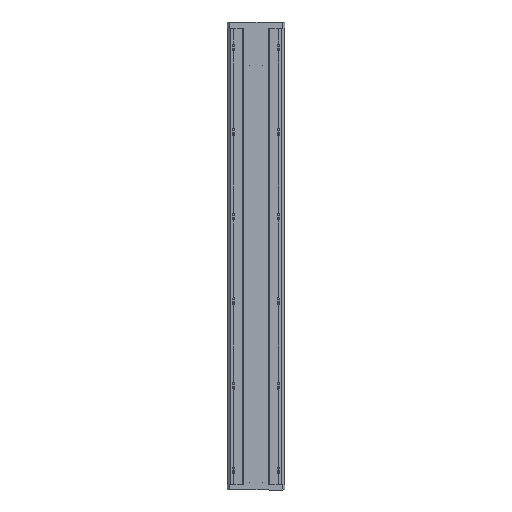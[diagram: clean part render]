
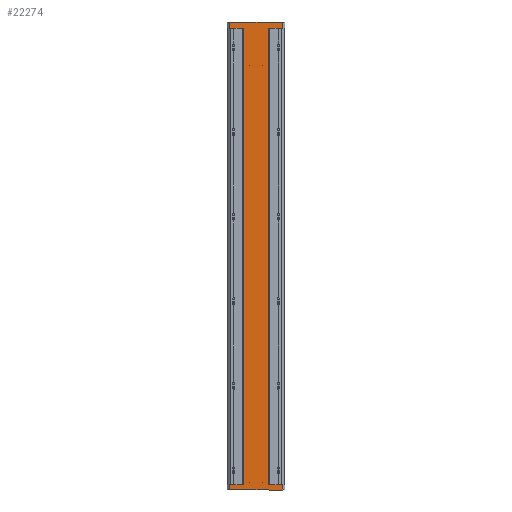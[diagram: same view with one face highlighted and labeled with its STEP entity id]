
A CAD part, front view. The second image highlights one B-rep face of the part: STEP entity #22274.
In plain terms, the highlighted planar face has unit normal (0, -1, 0).
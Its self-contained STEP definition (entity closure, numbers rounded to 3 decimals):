
#43 = VECTOR ( 'NONE', #20192, 1000. ) ;
#166 = EDGE_CURVE ( 'NONE', #13859, #22453, #13970, .T. ) ;
#246 = ORIENTED_EDGE ( 'NONE', *, *, #28157, .F. ) ;
#507 = ORIENTED_EDGE ( 'NONE', *, *, #34136, .F. ) ;
#532 = VERTEX_POINT ( 'NONE', #30025 ) ;
#646 = CARTESIAN_POINT ( 'NONE',  ( -62., 0., -927. ) ) ;
#708 = VECTOR ( 'NONE', #23096, 1000. ) ;
#1125 = VECTOR ( 'NONE', #2888, 1000. ) ;
#1501 = ORIENTED_EDGE ( 'NONE', *, *, #8194, .F. ) ;
#1569 = CARTESIAN_POINT ( 'NONE',  ( 0., 0., -927. ) ) ;
#1695 = CARTESIAN_POINT ( 'NONE',  ( 62., 0., 180. ) ) ;
#2070 = ORIENTED_EDGE ( 'NONE', *, *, #2386, .F. ) ;
#2386 = EDGE_CURVE ( 'NONE', #13859, #36493, #9461, .T. ) ;
#2772 = CARTESIAN_POINT ( 'NONE',  ( -30.172, 0., 115. ) ) ;
#2888 = DIRECTION ( 'NONE',  ( 0., 0., -1. ) ) ;
#3150 = VECTOR ( 'NONE', #14347, 1000. ) ;
#3589 = EDGE_CURVE ( 'NONE', #36493, #25877, #35976, .T. ) ;
#4096 = ORIENTED_EDGE ( 'NONE', *, *, #34611, .F. ) ;
#4175 = LINE ( 'NONE', #36622, #43 ) ;
#5714 = LINE ( 'NONE', #27216, #32747 ) ;
#6416 = VECTOR ( 'NONE', #19162, 1000. ) ;
#7761 = EDGE_CURVE ( 'NONE', #17090, #8768, #18859, .T. ) ;
#7998 = VECTOR ( 'NONE', #10881, 1000. ) ;
#8048 = CARTESIAN_POINT ( 'NONE',  ( 62., 0., -927. ) ) ;
#8159 = ORIENTED_EDGE ( 'NONE', *, *, #34766, .T. ) ;
#8194 = EDGE_CURVE ( 'NONE', #25877, #13759, #26120, .T. ) ;
#8768 = VERTEX_POINT ( 'NONE', #646 ) ;
#9440 = CARTESIAN_POINT ( 'NONE',  ( -30.172, 0., -915. ) ) ;
#9461 = LINE ( 'NONE', #31008, #12668 ) ;
#9785 = EDGE_CURVE ( 'NONE', #10487, #532, #23052, .T. ) ;
#10487 = VERTEX_POINT ( 'NONE', #31506 ) ;
#10606 = DIRECTION ( 'NONE',  ( -1., 0., 0. ) ) ;
#10881 = DIRECTION ( 'NONE',  ( 0., 0., 1. ) ) ;
#11232 = LINE ( 'NONE', #11843, #26774 ) ;
#11843 = CARTESIAN_POINT ( 'NONE',  ( -30.172, 0., -915. ) ) ;
#12668 = VECTOR ( 'NONE', #14434, 1000. ) ;
#13002 = EDGE_CURVE ( 'NONE', #17090, #22209, #11232, .T. ) ;
#13049 = DIRECTION ( 'NONE',  ( 1., 0., 0. ) ) ;
#13759 = VERTEX_POINT ( 'NONE', #24183 ) ;
#13848 = AXIS2_PLACEMENT_3D ( 'NONE', #2772, #23088, #18146 ) ;
#13859 = VERTEX_POINT ( 'NONE', #29756 ) ;
#13970 = LINE ( 'NONE', #15857, #7998 ) ;
#14117 = LINE ( 'NONE', #35521, #34322 ) ;
#14216 = CARTESIAN_POINT ( 'NONE',  ( 30.172, 0., 165. ) ) ;
#14347 = DIRECTION ( 'NONE',  ( 1., 0., 0. ) ) ;
#14434 = DIRECTION ( 'NONE',  ( -1., 0., 0. ) ) ;
#14496 = CARTESIAN_POINT ( 'NONE',  ( 30.172, 0., -915. ) ) ;
#15084 = FACE_OUTER_BOUND ( 'NONE', #33039, .T. ) ;
#15311 = ORIENTED_EDGE ( 'NONE', *, *, #31632, .F. ) ;
#15425 = VERTEX_POINT ( 'NONE', #34531 ) ;
#15799 = CARTESIAN_POINT ( 'NONE',  ( -30.172, 0., -915. ) ) ;
#15857 = CARTESIAN_POINT ( 'NONE',  ( 62., 0., 115. ) ) ;
#17090 = VERTEX_POINT ( 'NONE', #30603 ) ;
#18146 = DIRECTION ( 'NONE',  ( 0., 0., 1. ) ) ;
#18156 = LINE ( 'NONE', #1569, #33355 ) ;
#18859 = LINE ( 'NONE', #18889, #6416 ) ;
#18889 = CARTESIAN_POINT ( 'NONE',  ( -62., 0., 165. ) ) ;
#19061 = DIRECTION ( 'NONE',  ( 0., 0., 1. ) ) ;
#19162 = DIRECTION ( 'NONE',  ( 0., 0., -1. ) ) ;
#19313 = LINE ( 'NONE', #35772, #3150 ) ;
#19512 = CARTESIAN_POINT ( 'NONE',  ( 30.172, 0., 115. ) ) ;
#20192 = DIRECTION ( 'NONE',  ( 0., 0., 1. ) ) ;
#21977 = ORIENTED_EDGE ( 'NONE', *, *, #3589, .F. ) ;
#22209 = VERTEX_POINT ( 'NONE', #15799 ) ;
#22274 = ADVANCED_FACE ( 'NONE', ( #15084 ), #29173, .F. ) ;
#22453 = VERTEX_POINT ( 'NONE', #1695 ) ;
#23052 = LINE ( 'NONE', #23073, #708 ) ;
#23073 = CARTESIAN_POINT ( 'NONE',  ( -62., 0., 115. ) ) ;
#23088 = DIRECTION ( 'NONE',  ( 0., 1., 0. ) ) ;
#23096 = DIRECTION ( 'NONE',  ( 0., 0., -1. ) ) ;
#23100 = DIRECTION ( 'NONE',  ( -1., 0., 0. ) ) ;
#23636 = ORIENTED_EDGE ( 'NONE', *, *, #9785, .T. ) ;
#24183 = CARTESIAN_POINT ( 'NONE',  ( 62., 0., -915. ) ) ;
#24869 = VERTEX_POINT ( 'NONE', #8048 ) ;
#25877 = VERTEX_POINT ( 'NONE', #14496 ) ;
#26120 = LINE ( 'NONE', #9440, #33007 ) ;
#26774 = VECTOR ( 'NONE', #13049, 1000. ) ;
#27216 = CARTESIAN_POINT ( 'NONE',  ( -30.172, 0., 165. ) ) ;
#28157 = EDGE_CURVE ( 'NONE', #15425, #532, #5714, .T. ) ;
#29031 = ORIENTED_EDGE ( 'NONE', *, *, #13002, .F. ) ;
#29173 = PLANE ( 'NONE',  #13848 ) ;
#29756 = CARTESIAN_POINT ( 'NONE',  ( 62., 0., 165. ) ) ;
#30025 = CARTESIAN_POINT ( 'NONE',  ( -62., 0., 165. ) ) ;
#30603 = CARTESIAN_POINT ( 'NONE',  ( -62., 0., -915. ) ) ;
#30658 = ORIENTED_EDGE ( 'NONE', *, *, #166, .T. ) ;
#30988 = DIRECTION ( 'NONE',  ( 1., 0., 0. ) ) ;
#31008 = CARTESIAN_POINT ( 'NONE',  ( -30.172, 0., 165. ) ) ;
#31506 = CARTESIAN_POINT ( 'NONE',  ( -62., 0., 180. ) ) ;
#31632 = EDGE_CURVE ( 'NONE', #10487, #22453, #19313, .T. ) ;
#32747 = VECTOR ( 'NONE', #10606, 1000. ) ;
#33007 = VECTOR ( 'NONE', #30988, 1000. ) ;
#33039 = EDGE_LOOP ( 'NONE', ( #507, #29031, #36578, #4096, #8159, #1501, #21977, #2070, #30658, #15311, #23636, #246 ) ) ;
#33355 = VECTOR ( 'NONE', #23100, 1000. ) ;
#34136 = EDGE_CURVE ( 'NONE', #22209, #15425, #4175, .T. ) ;
#34322 = VECTOR ( 'NONE', #19061, 1000. ) ;
#34531 = CARTESIAN_POINT ( 'NONE',  ( -30.172, 0., 165. ) ) ;
#34611 = EDGE_CURVE ( 'NONE', #24869, #8768, #18156, .T. ) ;
#34766 = EDGE_CURVE ( 'NONE', #24869, #13759, #14117, .T. ) ;
#35521 = CARTESIAN_POINT ( 'NONE',  ( 62., 0., 165. ) ) ;
#35772 = CARTESIAN_POINT ( 'NONE',  ( 0., 0., 180. ) ) ;
#35976 = LINE ( 'NONE', #19512, #1125 ) ;
#36493 = VERTEX_POINT ( 'NONE', #14216 ) ;
#36578 = ORIENTED_EDGE ( 'NONE', *, *, #7761, .T. ) ;
#36622 = CARTESIAN_POINT ( 'NONE',  ( -30.172, 0., 115. ) ) ;
